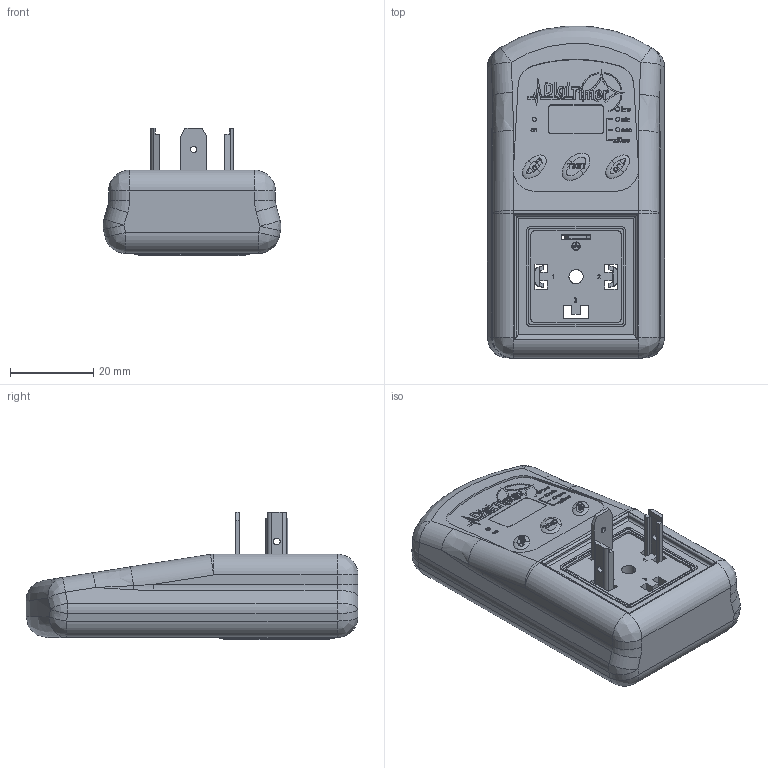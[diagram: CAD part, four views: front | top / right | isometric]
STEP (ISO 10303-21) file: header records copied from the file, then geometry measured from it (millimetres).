
FILE_DESCRIPTION (( 'STEP AP203' ), '1' );
FILE_NAME ('04E40_digitimer.STEP', '2023-04-17T17:13:27', ( '' ), ( '' ), 'SwSTEP 2.0', 'SolidWorks 2022', '' );
FILE_SCHEMA (( 'CONFIG_CONTROL_DESIGN' ));
Length unit declared in the file: millimetre
Products named in the file (1): 04E40_digitimer
Bounding box: 42.67 x 79.61 x 30.5 mm (x, y, z)
Volume: 52619.5 mm3; surface area: 12616.3 mm2
Topology: 4 solids, 4 shells, 1399 faces, 3887 edges, 2571 vertices
Faces by surface type: plane 1102, bspline 161, cylinder 136
Entity records: 47739 total; most frequent: CARTESIAN_POINT 13328, ORIENTED_EDGE 7764, DIRECTION 5943, EDGE_CURVE 3882, LINE 3197, VECTOR 3197, VERTEX_POINT 2571, EDGE_LOOP 1495
